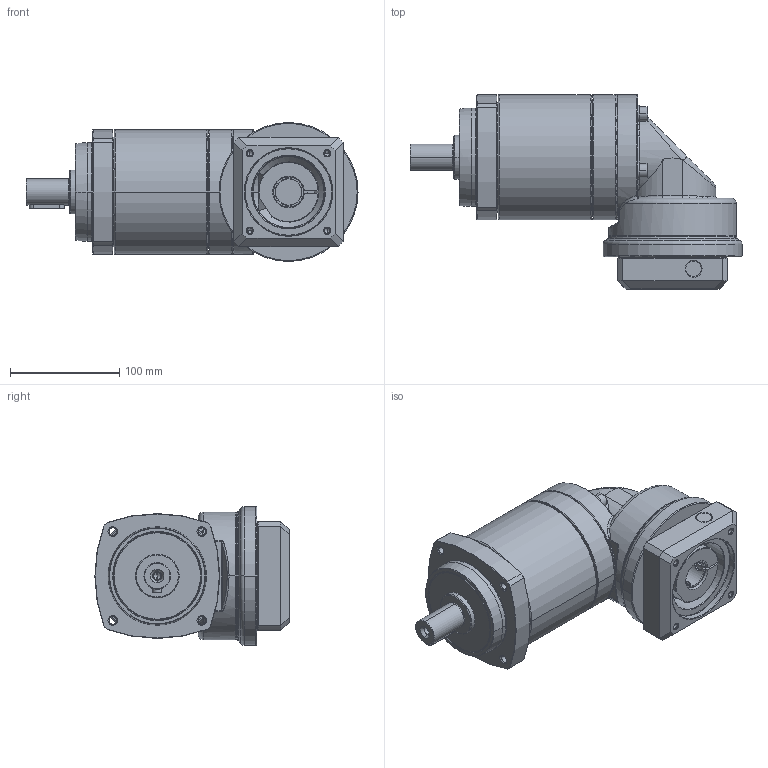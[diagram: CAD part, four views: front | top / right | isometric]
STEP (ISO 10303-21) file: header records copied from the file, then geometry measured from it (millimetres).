
FILE_DESCRIPTION((''),'2;1');
FILE_NAME('PS2R-D_2ST_24-P0411500101_ASM','2016-06-01T',('d01943'),(''),'PRO/ENGINEER BY PARAMETRIC TECHNOLOGY CORPORATION, 2008410','PRO/ENGINEER BY PARAMETRIC TECHNOLOGY CORPORATION, 2008410','');
FILE_SCHEMA(('CONFIG_CONTROL_DESIGN'));
Length unit declared in the file: millimetre
Products named in the file (12): P1328410001; P0251400001; P0350401401; P1349400001; P1017400001; P0713401001; P0503500008; P1350400101; P0411500101; P1702500001; 2111B108035; PS2R-D_2ST_24-P0411500101_ASM
Assembly tree (14 placements, depth 2):
  PS2R-D_2ST_24-P0411500101_ASM
    P1328410001
    P0251400001
    P0350401401
    P1349400001
    P1017400001
    P0713401001
    P0503500008
    P1350400101
    P0411500101
    P1702500001
    2111B108035  x4
Bounding box: 303.5 x 177.5 x 127 mm (x, y, z)
Volume: 1662135.3 mm3; surface area: 340556.6 mm2
Topology: 14 solids, 14 shells, 715 faces, 1579 edges, 914 vertices
Faces by surface type: cylinder 218, cone 212, plane 155, torus 96, bspline 34
Entity records: 22819 total; most frequent: CARTESIAN_POINT 9006, DIRECTION 3049, ORIENTED_EDGE 2682, EDGE_CURVE 1341, AXIS2_PLACEMENT_3D 1291, VERTEX_POINT 794, EDGE_LOOP 697, CIRCLE 683
